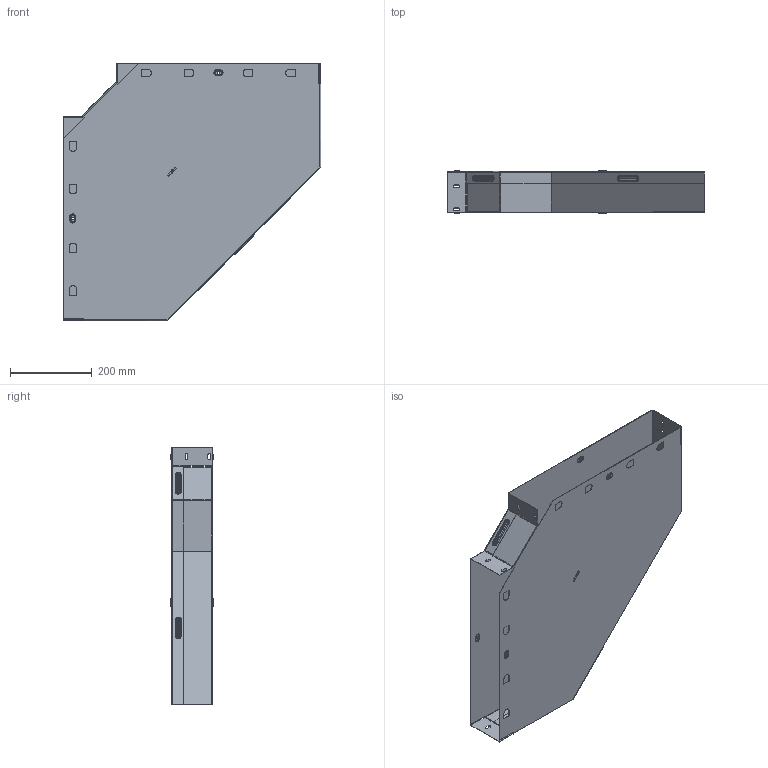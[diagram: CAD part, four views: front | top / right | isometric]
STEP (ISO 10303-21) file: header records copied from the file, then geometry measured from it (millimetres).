
FILE_DESCRIPTION (( 'STEP AP214' ), '1' );
FILE_NAME ('g90100500_捘.STEP', '2019-06-10T09:50:52', ( '砐錪賧瘔蠈錪 Windows' ), ( '' ), 'SwSTEP 2.0', 'SolidWorks 2018', '' );
FILE_SCHEMA (( 'AUTOMOTIVE_DESIGN' ));
Length unit declared in the file: millimetre
Products named in the file (1): g90100500_捘
Bounding box: 630.8 x 103.8 x 630.8 mm (x, y, z)
Volume: 616715.3 mm3; surface area: 1547887.2 mm2
Topology: 2 solids, 2 shells, 638 faces, 1806 edges, 1172 vertices
Faces by surface type: plane 384, cylinder 164, torus 64, bspline 26
Entity records: 22015 total; most frequent: CARTESIAN_POINT 5093, ORIENTED_EDGE 3612, DIRECTION 3376, EDGE_CURVE 1806, VECTOR 1334, LINE 1334, VERTEX_POINT 1172, AXIS2_PLACEMENT_3D 1021
